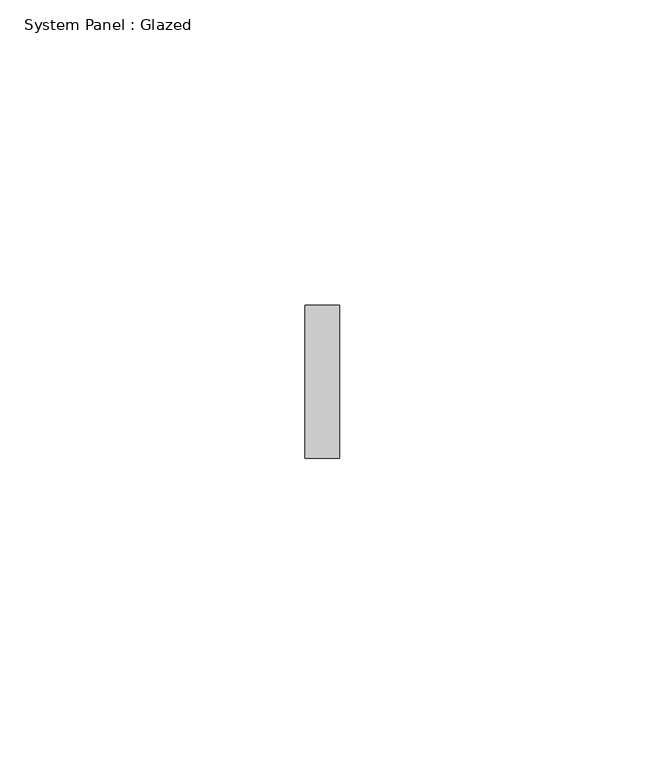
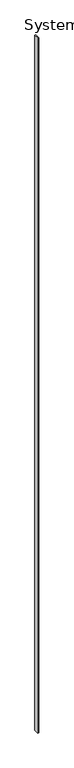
"""IFC4 building model written with IfcOpenShell, lengths in millimetres: plate geometry, System Panel : Glazed."""

from ifc_helpers import new_model, si_unit, origin, origin_with_axes, place, context, project, spatial, polyline, outline, extrude, source, transform, mapped, element, save


def system_panel_glazed_65586980(model_context):
    return source(origin(), model_context, "Body", "SweptSolid", [
        extrude(outline(polyline([(2.8074819, 24.5), (-2.8074819, 24.5), (-2.8074819, 49.5), (2.8074819, 49.5), (2.8074819, 24.5)])), origin_with_axes(), (0.0, 0.0, 1.0), 4000.0),
    ])


if __name__ == "__main__":
    model = new_model("IFC4")
    model_context = context("Model", 3, world=origin())
    ifc_project = project(units=[si_unit("LENGTHUNIT", "METRE", prefix="MILLI")], contexts=[model_context])
    site = spatial("IfcSite", under=ifc_project)
    building = spatial("IfcBuilding", under=site)
    placement = place(None, origin())
    system_panel_glazed_shape = system_panel_glazed_65586980(model_context)
    element("IfcPlate", 1, ObjectType="System Panel : Glazed", at=placement, inside=building, context=model_context, shape_type="MappedRepresentation", body=[
        mapped(system_panel_glazed_shape, transform((0.0, 0.0, 0.0), x_axis=(1.0, 0.0, 0.0), y_axis=(0.0, 1.0, 0.0), z_axis=(0.0, 0.0, 1.0))),
    ])
    save(model, "model.ifc")
